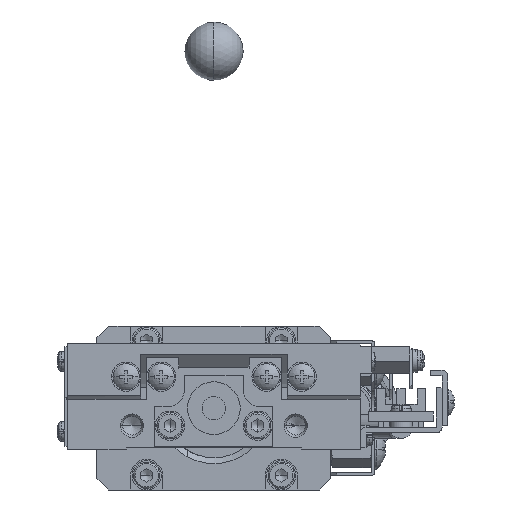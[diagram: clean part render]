
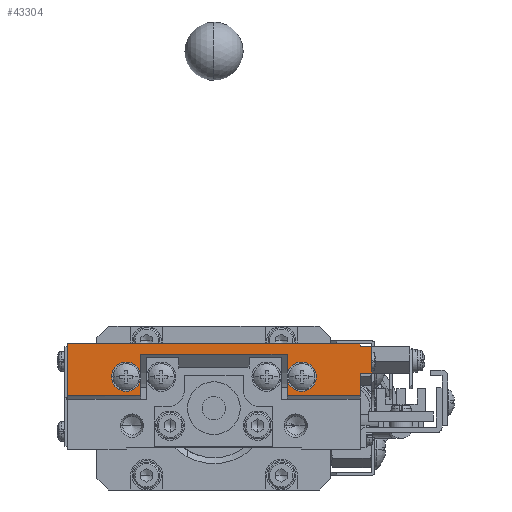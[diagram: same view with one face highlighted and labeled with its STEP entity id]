
A CAD part, left-side view. The second image highlights one B-rep face of the part: STEP entity #43304.
In plain terms, the highlighted planar face has unit normal (-1, 0, 0).
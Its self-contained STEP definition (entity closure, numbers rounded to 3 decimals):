
#781 = ORIENTED_EDGE ( 'NONE', *, *, #13096, .T. ) ;
#1135 = ORIENTED_EDGE ( 'NONE', *, *, #53869, .T. ) ;
#1817 = LINE ( 'NONE', #19416, #63162 ) ;
#1859 = VECTOR ( 'NONE', #75909, 1000. ) ;
#1917 = LINE ( 'NONE', #75996, #67353 ) ;
#2098 = AXIS2_PLACEMENT_3D ( 'NONE', #50415, #43706, #68958 ) ;
#2328 = EDGE_CURVE ( 'NONE', #13660, #28092, #61265, .T. ) ;
#2795 = CARTESIAN_POINT ( 'NONE',  ( -156.089, 113.702, -51.629 ) ) ;
#2829 = ORIENTED_EDGE ( 'NONE', *, *, #63368, .F. ) ;
#3173 = DIRECTION ( 'NONE',  ( 0., 0., -1. ) ) ;
#3177 = LINE ( 'NONE', #40534, #52474 ) ;
#3650 = CARTESIAN_POINT ( 'NONE',  ( -156.089, 76.202, -60.545 ) ) ;
#4220 = VECTOR ( 'NONE', #9591, 1000. ) ;
#4461 = CARTESIAN_POINT ( 'NONE',  ( -156.089, 101.202, -57.265 ) ) ;
#4724 = ORIENTED_EDGE ( 'NONE', *, *, #19449, .F. ) ;
#5872 = EDGE_CURVE ( 'NONE', #51446, #46638, #66627, .T. ) ;
#6193 = DIRECTION ( 'NONE',  ( -1., 0., 0. ) ) ;
#6430 = VERTEX_POINT ( 'NONE', #18785 ) ;
#7563 = VECTOR ( 'NONE', #45568, 1000. ) ;
#8535 = PLANE ( 'NONE',  #25764 ) ;
#9591 = DIRECTION ( 'NONE',  ( 0., -1., 0. ) ) ;
#10688 = ORIENTED_EDGE ( 'NONE', *, *, #60981, .F. ) ;
#11434 = VERTEX_POINT ( 'NONE', #21706 ) ;
#12829 = DIRECTION ( 'NONE',  ( 0., -1., 0. ) ) ;
#12857 = EDGE_CURVE ( 'NONE', #61408, #30756, #71363, .T. ) ;
#12924 = DIRECTION ( 'NONE',  ( 0., -1., 0. ) ) ;
#13096 = EDGE_CURVE ( 'NONE', #66828, #6430, #50269, .T. ) ;
#13513 = DIRECTION ( 'NONE',  ( 0., 0., -1. ) ) ;
#13543 = LINE ( 'NONE', #31112, #21593 ) ;
#13660 = VERTEX_POINT ( 'NONE', #53874 ) ;
#13927 = ORIENTED_EDGE ( 'NONE', *, *, #12857, .T. ) ;
#14555 = CARTESIAN_POINT ( 'NONE',  ( -156.089, 113.702, -60.545 ) ) ;
#15496 = CIRCLE ( 'NONE', #37646, 2.5 ) ;
#15537 = CARTESIAN_POINT ( 'NONE',  ( -156.089, 76.202, -57.265 ) ) ;
#16879 = ORIENTED_EDGE ( 'NONE', *, *, #23610, .F. ) ;
#18324 = DIRECTION ( 'NONE',  ( 0., 0., 1. ) ) ;
#18785 = CARTESIAN_POINT ( 'NONE',  ( -156.089, 101.202, -60.545 ) ) ;
#18870 = CARTESIAN_POINT ( 'NONE',  ( -156.089, 76.202, -65.629 ) ) ;
#18944 = CARTESIAN_POINT ( 'NONE',  ( -156.089, 63.702, -60.545 ) ) ;
#19023 = VECTOR ( 'NONE', #63856, 1000. ) ;
#19286 = DIRECTION ( 'NONE',  ( -1., 0., 0. ) ) ;
#19416 = CARTESIAN_POINT ( 'NONE',  ( -156.089, 101.202, -51.629 ) ) ;
#19449 = EDGE_CURVE ( 'NONE', #21784, #22462, #67427, .T. ) ;
#21250 = DIRECTION ( 'NONE',  ( 0., -1., 0. ) ) ;
#21355 = DIRECTION ( 'NONE',  ( 0., 0., 1. ) ) ;
#21547 = EDGE_CURVE ( 'NONE', #46638, #51446, #36067, .T. ) ;
#21593 = VECTOR ( 'NONE', #76626, 1000. ) ;
#21706 = CARTESIAN_POINT ( 'NONE',  ( -156.089, 101.202, -53.41 ) ) ;
#21784 = VERTEX_POINT ( 'NONE', #38996 ) ;
#22462 = VERTEX_POINT ( 'NONE', #35973 ) ;
#23610 = EDGE_CURVE ( 'NONE', #72725, #28092, #81540, .T. ) ;
#25613 = CARTESIAN_POINT ( 'NONE',  ( -156.089, 113.702, -60.545 ) ) ;
#25734 = EDGE_LOOP ( 'NONE', ( #44958, #53833, #33486, #83357, #55198, #35917, #16879, #75535, #2829, #34841, #13927, #63828, #4724, #10688, #1135, #781, #76049, #55767 ) ) ;
#25764 = AXIS2_PLACEMENT_3D ( 'NONE', #60256, #53796, #3173 ) ;
#27145 = EDGE_CURVE ( 'NONE', #11434, #13660, #68968, .T. ) ;
#27287 = LINE ( 'NONE', #33926, #48441 ) ;
#28092 = VERTEX_POINT ( 'NONE', #15537 ) ;
#29199 = AXIS2_PLACEMENT_3D ( 'NONE', #44745, #6193, #76457 ) ;
#30756 = VERTEX_POINT ( 'NONE', #40230 ) ;
#31112 = CARTESIAN_POINT ( 'NONE',  ( -156.089, 113.702, -51.629 ) ) ;
#31323 = CARTESIAN_POINT ( 'NONE',  ( -156.089, 106.202, -57.265 ) ) ;
#32580 = DIRECTION ( 'NONE',  ( 0., 0., -1. ) ) ;
#33153 = CARTESIAN_POINT ( 'NONE',  ( -156.089, 70.702, -51.629 ) ) ;
#33486 = ORIENTED_EDGE ( 'NONE', *, *, #27145, .T. ) ;
#33926 = CARTESIAN_POINT ( 'NONE',  ( -156.089, 63.702, -52.129 ) ) ;
#34006 = EDGE_CURVE ( 'NONE', #68938, #61408, #72628, .T. ) ;
#34841 = ORIENTED_EDGE ( 'NONE', *, *, #34006, .T. ) ;
#35917 = ORIENTED_EDGE ( 'NONE', *, *, #62319, .F. ) ;
#35973 = CARTESIAN_POINT ( 'NONE',  ( -156.089, 63.702, -52.129 ) ) ;
#36067 = CIRCLE ( 'NONE', #42403, 2.5 ) ;
#37181 = FACE_OUTER_BOUND ( 'NONE', #25734, .T. ) ;
#37440 = CARTESIAN_POINT ( 'NONE',  ( -156.089, 76.202, -51.629 ) ) ;
#37646 = AXIS2_PLACEMENT_3D ( 'NONE', #51646, #76369, #12829 ) ;
#38804 = CARTESIAN_POINT ( 'NONE',  ( -156.089, 101.202, -53.41 ) ) ;
#38996 = CARTESIAN_POINT ( 'NONE',  ( -156.089, 63.702, -51.629 ) ) ;
#40125 = VERTEX_POINT ( 'NONE', #2795 ) ;
#40230 = CARTESIAN_POINT ( 'NONE',  ( -156.089, 61.702, -52.129 ) ) ;
#40534 = CARTESIAN_POINT ( 'NONE',  ( -156.089, 101.202, -65.629 ) ) ;
#42403 = AXIS2_PLACEMENT_3D ( 'NONE', #69630, #19286, #57802 ) ;
#43304 = ADVANCED_FACE ( 'NONE', ( #37181 ), #8535, .T. ) ;
#43706 = DIRECTION ( 'NONE',  ( -1., 0., 0. ) ) ;
#43714 = EDGE_CURVE ( 'NONE', #11434, #46638, #1817, .T. ) ;
#44482 = CARTESIAN_POINT ( 'NONE',  ( -156.089, 61.702, -56.629 ) ) ;
#44745 = CARTESIAN_POINT ( 'NONE',  ( -156.089, 73.702, -57.265 ) ) ;
#44958 = ORIENTED_EDGE ( 'NONE', *, *, #21547, .F. ) ;
#45279 = CARTESIAN_POINT ( 'NONE',  ( -156.089, 63.702, -51.629 ) ) ;
#45568 = DIRECTION ( 'NONE',  ( 0., -1., 0. ) ) ;
#45786 = LINE ( 'NONE', #33153, #82895 ) ;
#46638 = VERTEX_POINT ( 'NONE', #4461 ) ;
#48441 = VECTOR ( 'NONE', #21250, 1000. ) ;
#49926 = EDGE_CURVE ( 'NONE', #22462, #30756, #27287, .T. ) ;
#50269 = LINE ( 'NONE', #25613, #69374 ) ;
#50345 = VECTOR ( 'NONE', #82438, 1000. ) ;
#50415 = CARTESIAN_POINT ( 'NONE',  ( -156.089, 103.702, -57.265 ) ) ;
#51446 = VERTEX_POINT ( 'NONE', #31323 ) ;
#51592 = CARTESIAN_POINT ( 'NONE',  ( -156.089, 71.202, -57.265 ) ) ;
#51646 = CARTESIAN_POINT ( 'NONE',  ( -156.089, 73.702, -57.265 ) ) ;
#51716 = VECTOR ( 'NONE', #32580, 1000. ) ;
#52474 = VECTOR ( 'NONE', #21355, 1000. ) ;
#53118 = DIRECTION ( 'NONE',  ( 0., -1., 0. ) ) ;
#53796 = DIRECTION ( 'NONE',  ( -1., 0., 0. ) ) ;
#53833 = ORIENTED_EDGE ( 'NONE', *, *, #43714, .F. ) ;
#53869 = EDGE_CURVE ( 'NONE', #40125, #66828, #13543, .T. ) ;
#53874 = CARTESIAN_POINT ( 'NONE',  ( -156.089, 76.202, -53.41 ) ) ;
#54378 = VECTOR ( 'NONE', #18324, 1000. ) ;
#55198 = ORIENTED_EDGE ( 'NONE', *, *, #81503, .F. ) ;
#55767 = ORIENTED_EDGE ( 'NONE', *, *, #5872, .F. ) ;
#56074 = DIRECTION ( 'NONE',  ( 0., -1., 0. ) ) ;
#56715 = VERTEX_POINT ( 'NONE', #18944 ) ;
#57802 = DIRECTION ( 'NONE',  ( 0., -1., 0. ) ) ;
#58224 = EDGE_CURVE ( 'NONE', #72725, #56715, #1917, .T. ) ;
#59373 = VERTEX_POINT ( 'NONE', #51592 ) ;
#60256 = CARTESIAN_POINT ( 'NONE',  ( -156.089, 70.702, -51.629 ) ) ;
#60753 = LINE ( 'NONE', #45279, #51716 ) ;
#60981 = EDGE_CURVE ( 'NONE', #40125, #21784, #45786, .T. ) ;
#61265 = LINE ( 'NONE', #37440, #1859 ) ;
#61408 = VERTEX_POINT ( 'NONE', #62660 ) ;
#62319 = EDGE_CURVE ( 'NONE', #28092, #59373, #15496, .T. ) ;
#62660 = CARTESIAN_POINT ( 'NONE',  ( -156.089, 61.702, -56.629 ) ) ;
#63162 = VECTOR ( 'NONE', #13513, 1000. ) ;
#63368 = EDGE_CURVE ( 'NONE', #68938, #56715, #60753, .T. ) ;
#63828 = ORIENTED_EDGE ( 'NONE', *, *, #49926, .F. ) ;
#63856 = DIRECTION ( 'NONE',  ( 0., 0., 1. ) ) ;
#66627 = CIRCLE ( 'NONE', #2098, 2.5 ) ;
#66828 = VERTEX_POINT ( 'NONE', #14555 ) ;
#67353 = VECTOR ( 'NONE', #56074, 1000. ) ;
#67427 = LINE ( 'NONE', #81891, #50345 ) ;
#68339 = CARTESIAN_POINT ( 'NONE',  ( -156.089, 63.702, -56.629 ) ) ;
#68938 = VERTEX_POINT ( 'NONE', #68339 ) ;
#68958 = DIRECTION ( 'NONE',  ( 0., -1., 0. ) ) ;
#68968 = LINE ( 'NONE', #38804, #7563 ) ;
#69374 = VECTOR ( 'NONE', #12924, 1000. ) ;
#69630 = CARTESIAN_POINT ( 'NONE',  ( -156.089, 103.702, -57.265 ) ) ;
#71363 = LINE ( 'NONE', #44482, #19023 ) ;
#72628 = LINE ( 'NONE', #74477, #4220 ) ;
#72725 = VERTEX_POINT ( 'NONE', #3650 ) ;
#74477 = CARTESIAN_POINT ( 'NONE',  ( -156.089, 63.702, -56.629 ) ) ;
#75535 = ORIENTED_EDGE ( 'NONE', *, *, #58224, .T. ) ;
#75909 = DIRECTION ( 'NONE',  ( 0., 0., -1. ) ) ;
#75996 = CARTESIAN_POINT ( 'NONE',  ( -156.089, 70.702, -60.545 ) ) ;
#76049 = ORIENTED_EDGE ( 'NONE', *, *, #79665, .T. ) ;
#76369 = DIRECTION ( 'NONE',  ( -1., 0., 0. ) ) ;
#76457 = DIRECTION ( 'NONE',  ( 0., -1., 0. ) ) ;
#76626 = DIRECTION ( 'NONE',  ( 0., 0., -1. ) ) ;
#77299 = CIRCLE ( 'NONE', #29199, 2.5 ) ;
#79665 = EDGE_CURVE ( 'NONE', #6430, #46638, #3177, .T. ) ;
#81503 = EDGE_CURVE ( 'NONE', #59373, #28092, #77299, .T. ) ;
#81540 = LINE ( 'NONE', #18870, #54378 ) ;
#81891 = CARTESIAN_POINT ( 'NONE',  ( -156.089, 63.702, -51.629 ) ) ;
#82438 = DIRECTION ( 'NONE',  ( 0., 0., -1. ) ) ;
#82895 = VECTOR ( 'NONE', #53118, 1000. ) ;
#83357 = ORIENTED_EDGE ( 'NONE', *, *, #2328, .T. ) ;
